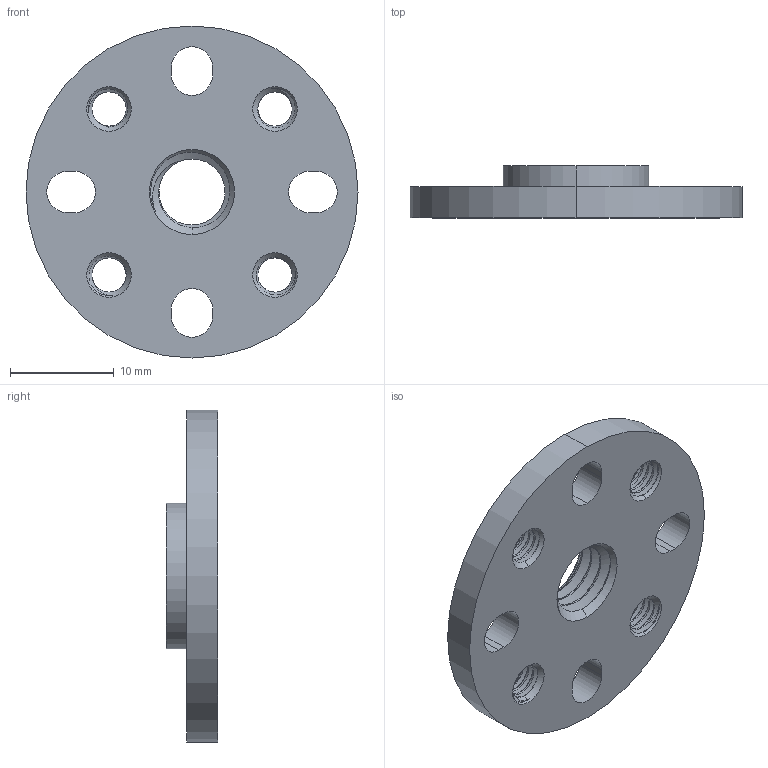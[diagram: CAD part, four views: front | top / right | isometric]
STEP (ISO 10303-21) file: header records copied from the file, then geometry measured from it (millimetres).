
FILE_DESCRIPTION (( 'STEP AP203' ), '1' );
FILE_NAME ('2814-0016-0008.STEP', '2020-12-01T20:22:05', ( '' ), ( '' ), 'SwSTEP 2.0', 'SolidWorks 2016', '' );
FILE_SCHEMA (( 'CONFIG_CONTROL_DESIGN' ));
Length unit declared in the file: millimetre
Products named in the file (1): 2814-0016-0008
Bounding box: 32 x 5 x 32 mm (x, y, z)
Volume: 2196.2 mm3; surface area: 2230.2 mm2
Topology: 1 solids, 1 shells, 141 faces, 408 edges, 270 vertices
Faces by surface type: cylinder 95, cone 25, plane 11, bspline 10
Entity records: 15835 total; most frequent: CARTESIAN_POINT 12504, ORIENTED_EDGE 816, DIRECTION 560, EDGE_CURVE 408, VERTEX_POINT 270, AXIS2_PLACEMENT_3D 213, EDGE_LOOP 160, FACE_OUTER_BOUND 141
